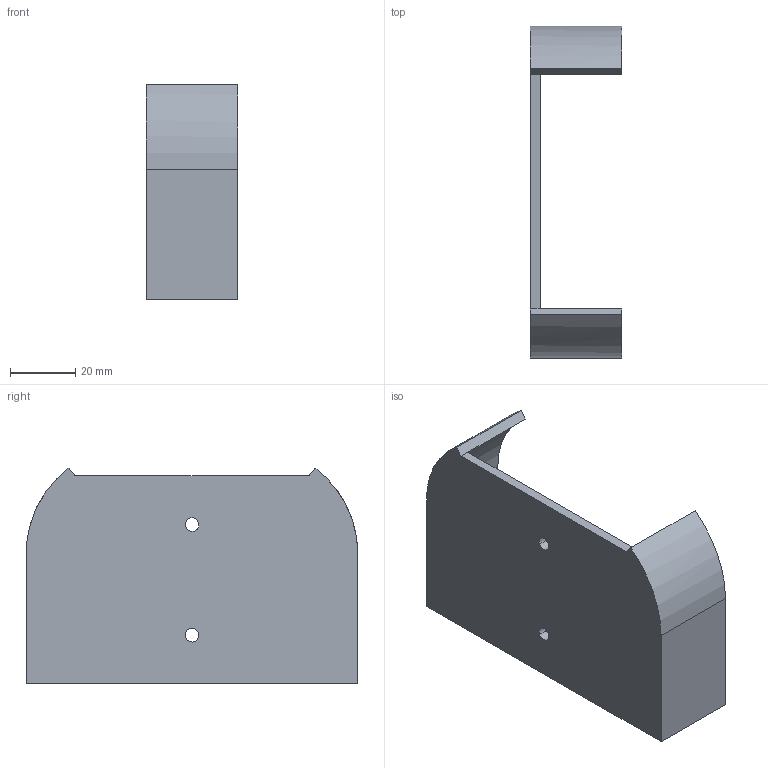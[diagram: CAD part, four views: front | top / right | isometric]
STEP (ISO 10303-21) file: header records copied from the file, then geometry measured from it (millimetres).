
FILE_DESCRIPTION(('CATIA V5 STEP Exchange'),'2;1');
FILE_NAME('C:\Users\Hashaam\Documents\CAD_Project\review\Foot_Plate_positioned.stp','2026-10-06T14:53:39+00:00',('none'),('none'),'CATIA Version 5 Release 21 GA (IN-10)','CATIA V5 STEP AP203','none');
FILE_SCHEMA(('CONFIG_CONTROL_DESIGN'));
Length unit declared in the file: millimetre
Products named in the file (1): Foot_Plate
Bounding box: 28 x 102 x 66.4 mm (x, y, z)
Volume: 29455.8 mm3; surface area: 20980 mm2
Topology: 1 solids, 1 shells, 24 faces, 56 edges, 34 vertices
Faces by surface type: plane 16, cylinder 8
Entity records: 716 total; most frequent: CARTESIAN_POINT 141, ORIENTED_EDGE 112, DIRECTION 94, EDGE_CURVE 56, VECTOR 38, LINE 38, AXIS2_PLACEMENT_3D 35, VERTEX_POINT 34
